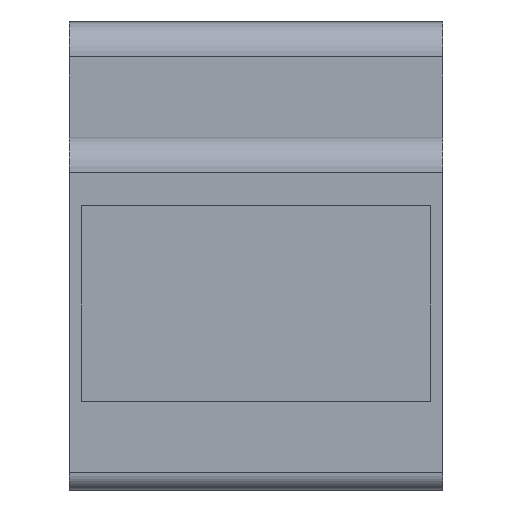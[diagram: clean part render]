
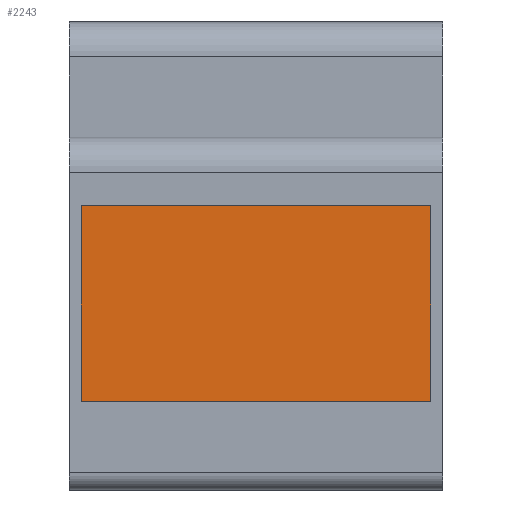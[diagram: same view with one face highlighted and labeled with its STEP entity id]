
A CAD part, left-side view. The second image highlights one B-rep face of the part: STEP entity #2243.
In plain terms, the highlighted planar face has unit normal (-1, 0, 0).
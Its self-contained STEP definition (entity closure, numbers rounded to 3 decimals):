
#86=PLANE('',#2445);
#795=ORIENTED_EDGE('',*,*,#1137,.F.);
#796=ORIENTED_EDGE('',*,*,#1143,.F.);
#797=ORIENTED_EDGE('',*,*,#1141,.F.);
#798=ORIENTED_EDGE('',*,*,#1139,.F.);
#1137=EDGE_CURVE('',#1363,#1364,#1605,.T.);
#1139=EDGE_CURVE('',#1364,#1365,#1607,.T.);
#1141=EDGE_CURVE('',#1365,#1366,#1609,.T.);
#1143=EDGE_CURVE('',#1366,#1363,#1611,.T.);
#1363=VERTEX_POINT('',#3702);
#1364=VERTEX_POINT('',#3704);
#1365=VERTEX_POINT('',#3708);
#1366=VERTEX_POINT('',#3712);
#1605=LINE('',#3703,#1855);
#1607=LINE('',#3707,#1857);
#1609=LINE('',#3711,#1859);
#1611=LINE('',#3715,#1861);
#1855=VECTOR('',#3044,1000.);
#1857=VECTOR('',#3048,1000.);
#1859=VECTOR('',#3052,1000.);
#1861=VECTOR('',#3056,1000.);
#1980=EDGE_LOOP('',(#795,#796,#797,#798));
#2094=FACE_BOUND('',#1980,.T.);
#2243=ADVANCED_FACE('',(#2094),#86,.F.);
#2445=AXIS2_PLACEMENT_3D('',#3716,#3057,#3058);
#3044=DIRECTION('',(0.,0.,1.));
#3048=DIRECTION('',(0.,-1.,0.));
#3052=DIRECTION('',(0.,0.,-1.));
#3056=DIRECTION('',(0.,1.,0.));
#3057=DIRECTION('',(1.,0.,0.));
#3058=DIRECTION('',(0.,0.,-1.));
#3702=CARTESIAN_POINT('',(-42.25,51.75,-20.8));
#3703=CARTESIAN_POINT('',(-42.25,51.75,7.2));
#3704=CARTESIAN_POINT('',(-42.25,51.75,7.2));
#3707=CARTESIAN_POINT('',(-42.25,51.75,7.2));
#3708=CARTESIAN_POINT('',(-42.25,1.75,7.2));
#3711=CARTESIAN_POINT('',(-42.25,1.75,7.2));
#3712=CARTESIAN_POINT('',(-42.25,1.75,-20.8));
#3715=CARTESIAN_POINT('',(-42.25,51.75,-20.8));
#3716=CARTESIAN_POINT('',(-42.25,0.,0.));
